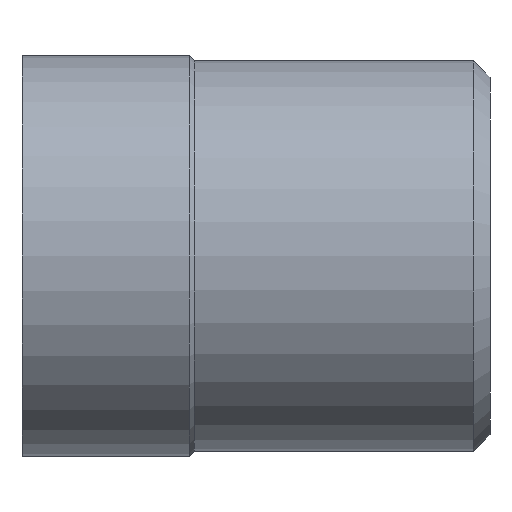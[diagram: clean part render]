
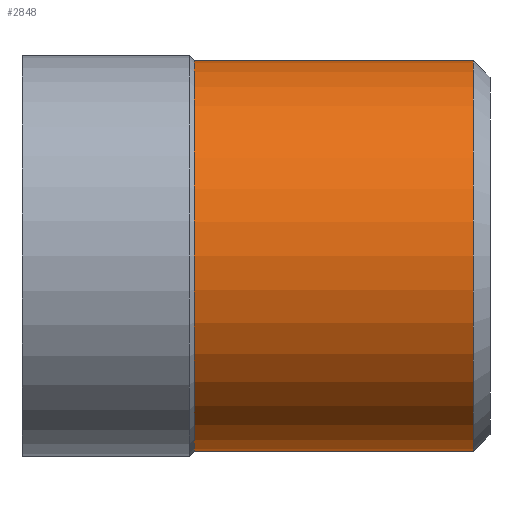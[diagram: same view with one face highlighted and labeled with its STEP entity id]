
A CAD part, left-side view. The second image highlights one B-rep face of the part: STEP entity #2848.
In plain terms, the highlighted cylindrical face has radius 5.85 mm (diameter 11.7 mm), a partial arc.
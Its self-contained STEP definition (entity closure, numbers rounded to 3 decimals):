
#344 = VECTOR ( 'NONE', #6092, 1000. ) ;
#358 = ORIENTED_EDGE ( 'NONE', *, *, #5357, .T. ) ;
#441 = VERTEX_POINT ( 'NONE', #3532 ) ;
#880 = FACE_OUTER_BOUND ( 'NONE', #3124, .T. ) ;
#892 = CARTESIAN_POINT ( 'NONE',  ( 0., -5.15, 0. ) ) ;
#1068 = VERTEX_POINT ( 'NONE', #6649 ) ;
#1071 = EDGE_CURVE ( 'NONE', #3299, #1140, #1721, .T. ) ;
#1125 = CARTESIAN_POINT ( 'NONE',  ( 0., 3.29, 0. ) ) ;
#1140 = VERTEX_POINT ( 'NONE', #4968 ) ;
#1299 = DIRECTION ( 'NONE',  ( 0., 1., 0. ) ) ;
#1309 = AXIS2_PLACEMENT_3D ( 'NONE', #892, #1299, #1325 ) ;
#1325 = DIRECTION ( 'NONE',  ( 0., 0., 1. ) ) ;
#1673 = EDGE_CURVE ( 'NONE', #1140, #1068, #5905, .T. ) ;
#1721 = LINE ( 'NONE', #5130, #344 ) ;
#1911 = CARTESIAN_POINT ( 'NONE',  ( 0., -13.5, -5.85 ) ) ;
#2062 = ORIENTED_EDGE ( 'NONE', *, *, #1673, .F. ) ;
#2135 = CIRCLE ( 'NONE', #4668, 5.85 ) ;
#2509 = CARTESIAN_POINT ( 'NONE',  ( 0., -13.5, 0. ) ) ;
#2848 = ADVANCED_FACE ( 'NONE', ( #880 ), #4840, .T. ) ;
#2867 = EDGE_CURVE ( 'NONE', #441, #1068, #6191, .T. ) ;
#3021 = DIRECTION ( 'NONE',  ( 0., 0., 1. ) ) ;
#3108 = ORIENTED_EDGE ( 'NONE', *, *, #2867, .T. ) ;
#3124 = EDGE_LOOP ( 'NONE', ( #4157, #358, #3108, #2062 ) ) ;
#3233 = CARTESIAN_POINT ( 'NONE',  ( 0., 3.29, 5.85 ) ) ;
#3299 = VERTEX_POINT ( 'NONE', #1911 ) ;
#3532 = CARTESIAN_POINT ( 'NONE',  ( 0., -13.5, 5.85 ) ) ;
#3917 = AXIS2_PLACEMENT_3D ( 'NONE', #1125, #5778, #5251 ) ;
#4157 = ORIENTED_EDGE ( 'NONE', *, *, #1071, .F. ) ;
#4668 = AXIS2_PLACEMENT_3D ( 'NONE', #2509, #6091, #3021 ) ;
#4840 = CYLINDRICAL_SURFACE ( 'NONE', #3917, 5.85 ) ;
#4968 = CARTESIAN_POINT ( 'NONE',  ( 0., -5.15, -5.85 ) ) ;
#5130 = CARTESIAN_POINT ( 'NONE',  ( 0., 3.29, -5.85 ) ) ;
#5251 = DIRECTION ( 'NONE',  ( 0., 0., 1. ) ) ;
#5357 = EDGE_CURVE ( 'NONE', #3299, #441, #2135, .T. ) ;
#5778 = DIRECTION ( 'NONE',  ( 0., 1., 0. ) ) ;
#5905 = CIRCLE ( 'NONE', #1309, 5.85 ) ;
#6041 = VECTOR ( 'NONE', #6297, 1000. ) ;
#6091 = DIRECTION ( 'NONE',  ( 0., 1., 0. ) ) ;
#6092 = DIRECTION ( 'NONE',  ( 0., 1., 0. ) ) ;
#6191 = LINE ( 'NONE', #3233, #6041 ) ;
#6297 = DIRECTION ( 'NONE',  ( 0., 1., 0. ) ) ;
#6649 = CARTESIAN_POINT ( 'NONE',  ( 0., -5.15, 5.85 ) ) ;
